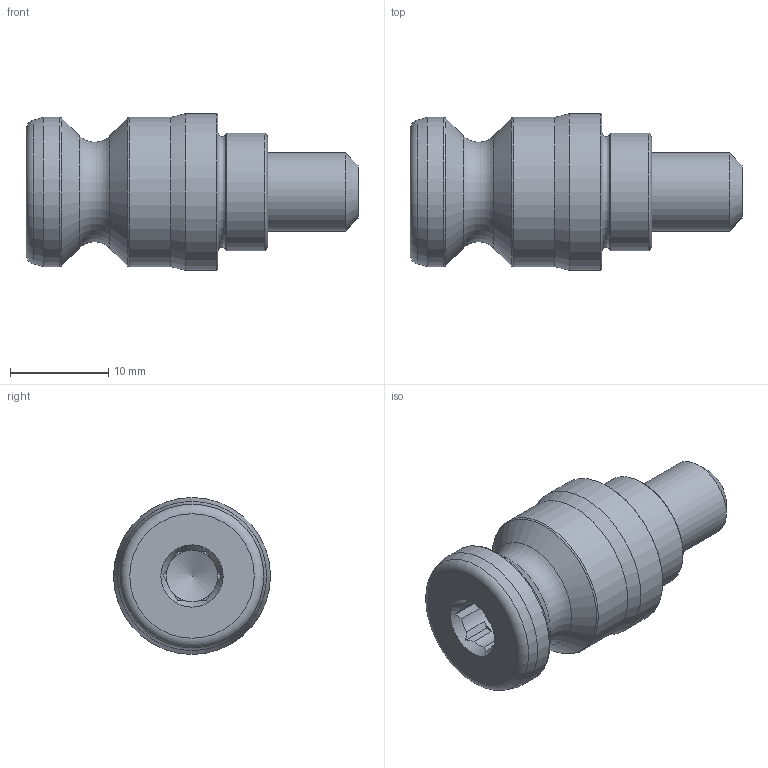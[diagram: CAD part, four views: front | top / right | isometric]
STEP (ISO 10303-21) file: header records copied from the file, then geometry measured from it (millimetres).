
FILE_DESCRIPTION (( 'STEP AP214' ), '1' );
FILE_NAME ('PS16F_WEBSITE.step', '2025-08-11T12:25:50', ( '' ), ( '' ), 'SwSTEP 2.0', 'SolidWorks 2025', '' );
FILE_SCHEMA (( 'AUTOMOTIVE_DESIGN' ));
Length unit declared in the file: inch
Products named in the file (3): PS16F_WEBSITE; PS16F_WEBSITE_HARD TURN; M8X20.FPSS_WEBSITE_93245A145
Assembly tree (2 placements, depth 2):
  PS16F_WEBSITE
    PS16F_WEBSITE_HARD TURN
    M8X20.FPSS_WEBSITE_93245A145
Bounding box: 33.83 x 16 x 16 mm (x, y, z)
Volume: 3937.2 mm3; surface area: 2421.5 mm2
Topology: 2 solids, 2 shells, 50 faces, 119 edges, 75 vertices
Faces by surface type: plane 24, cone 11, cylinder 8, torus 7
Full cylindrical faces by diameter (mm): 5.25 x1, 6.8 x1, 8 x2, 11.991 x1, 15.202 x2, 15.997 x1
Entity records: 1394 total; most frequent: CARTESIAN_POINT 251, DIRECTION 222, ORIENTED_EDGE 166, AXIS2_PLACEMENT_3D 96, EDGE_CURVE 83, EDGE_LOOP 78, FACE_OUTER_BOUND 65, VERTEX_POINT 65
